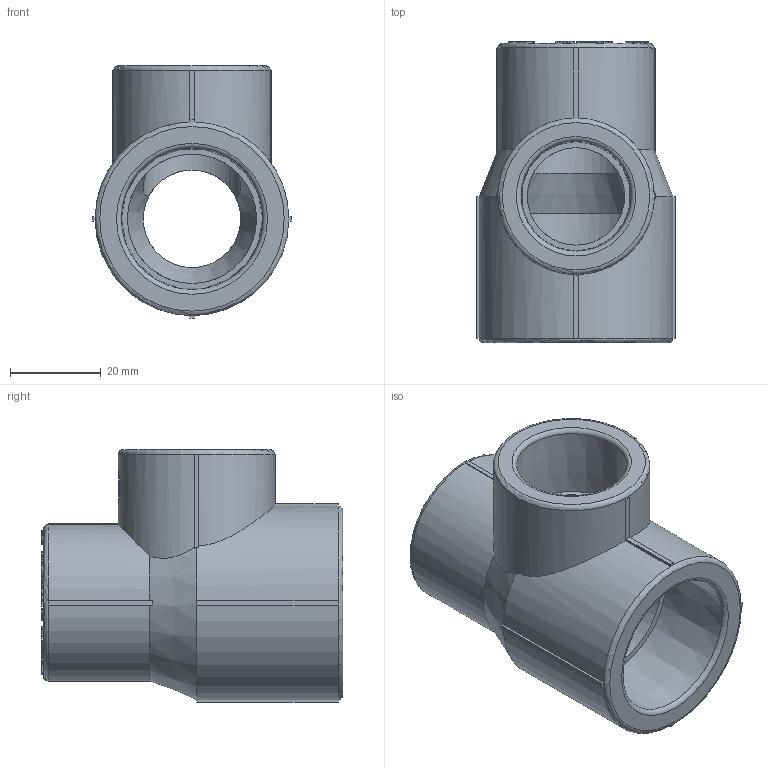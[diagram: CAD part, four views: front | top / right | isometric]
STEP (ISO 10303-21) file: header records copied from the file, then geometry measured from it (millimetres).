
FILE_DESCRIPTION(('STEP AP203'), '1');
FILE_NAME('ÂÐ.752241.055 - VTp.735.0.032025025', '', ('UNSPECIFIED'), ('UNSPECIFIED'), 'C3D Converter', 'C3D Toolkit', '');
FILE_SCHEMA(('CONFIG_CONTROL_DESIGN'));
Length unit declared in the file: millimetre
Products named in the file (1): ВР.752241.055
Bounding box: 43.8 x 66.5 x 55.65 mm (x, y, z)
Volume: 48247.2 mm3; surface area: 17962.3 mm2
Topology: 1 solids, 1 shells, 1219 faces, 3433 edges, 2278 vertices
Faces by surface type: extrusion 721, plane 447, cylinder 40, torus 6, cone 5
Full cylindrical faces by diameter (mm): 8 x1, 21.5 x2, 28.5 x1
Entity records: 44773 total; most frequent: CARTESIAN_POINT 16983, ORIENTED_EDGE 6840, DIRECTION 3443, EDGE_CURVE 3420, VECTOR 2325, VERTEX_POINT 2278, B_SPLINE_CURVE_WITH_KNOTS 2183, LINE 1604
